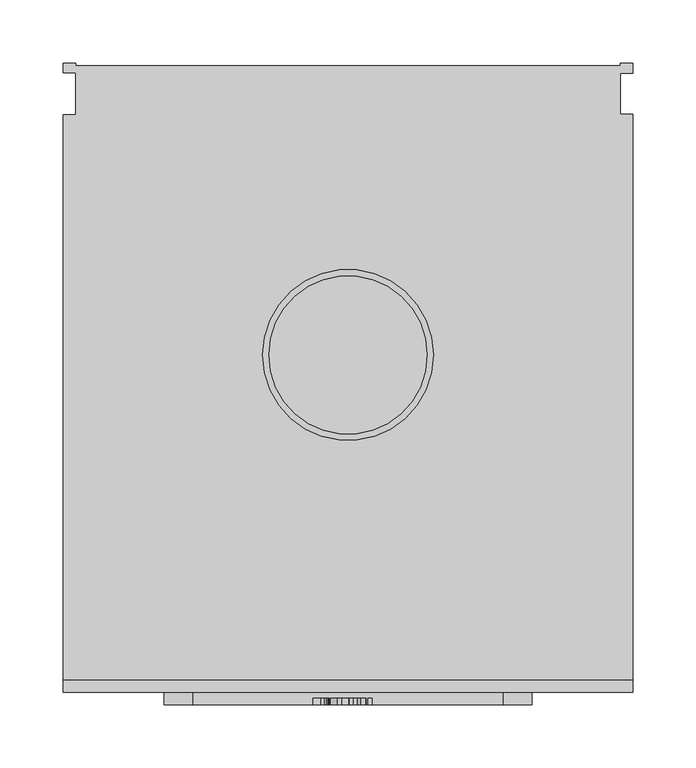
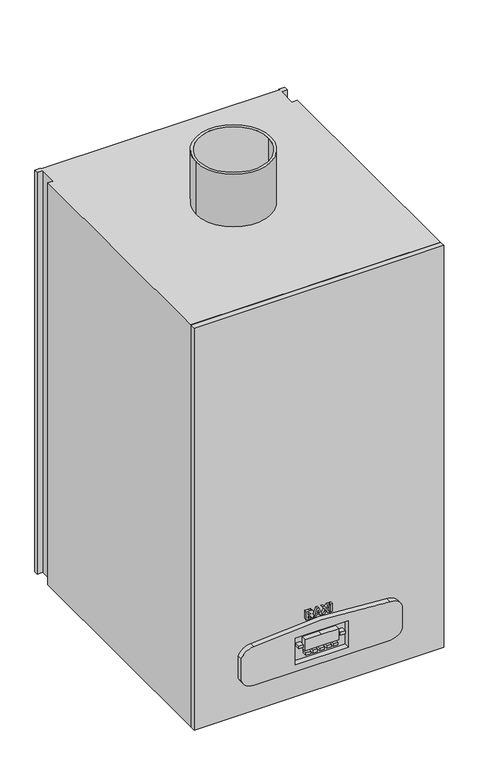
"""IFC4 building model written with IfcOpenShell, lengths in millimetres: proxy geometry, BAXI_ГазовыйКотел_Luna_Duo_tec_MP_1.35_1.50_1.60_1.70 : BAXI_Газовый котел_Luna_Duo-tec_MP_1.70."""

from ifc_helpers import new_model, si_unit, point, frame, frame_2d, origin, origin_with_axes, place, context, project, spatial, polyline, circle_curve, trimmed, segment, composite_curve, outline, extrude, source, transform, mapped, element, save


def mechanical_equipment_e7e8762c(model_context):
    return source(origin(), model_context, "Body", "SweptSolid", [
        extrude(outline(composite_curve([segment(trimmed(circle_curve(frame_2d((0.0, -229.0)), 67.5), [point((-67.5, -229.0))], [point((67.5, -229.0))], False, "CARTESIAN"), True, "CONTINUOUS"), segment(trimmed(circle_curve(frame_2d((0.0, -229.0)), 67.5), [point((67.5, -229.0))], [point((-67.5, -229.0))], False, "CARTESIAN"), True, "CONTINUOUS")], self_intersect=False), holes=[composite_curve([segment(trimmed(circle_curve(frame_2d((0.0, -229.0)), 62.5), [point((-62.5, -229.0))], [point((62.5, -229.0))], True, "CARTESIAN"), True, "CONTINUOUS"), segment(trimmed(circle_curve(frame_2d((0.0, -229.0)), 62.5), [point((62.5, -229.0))], [point((-62.5, -229.0))], True, "CARTESIAN"), True, "CONTINUOUS")], self_intersect=False)]), frame((0.0, 0.0, 766.0), z_axis=(0.0, 0.0, 1.0), x_axis=(1.0, 0.0, 0.0)), (0.0, 0.0, 1.0), 100.0),
        extrude(outline(composite_curve([segment(trimmed(circle_curve(frame_2d((130.5, -95.0)), 12.5), [point((118.0, -95.0))], [point((143.0, -95.0))], False, "CARTESIAN"), True, "CONTINUOUS"), segment(trimmed(circle_curve(frame_2d((130.5, -95.0)), 12.5), [point((143.0, -95.0))], [point((118.0, -95.0))], False, "CARTESIAN"), True, "CONTINUOUS")], self_intersect=False)), origin_with_axes(), (0.0, 0.0, 1.0), 27.0),
        extrude(outline(composite_curve([segment(trimmed(circle_curve(frame_2d((30.5, -95.0)), 12.5), [point((18.0, -95.0))], [point((43.0, -95.0))], False, "CARTESIAN"), True, "CONTINUOUS"), segment(trimmed(circle_curve(frame_2d((30.5, -95.0)), 12.5), [point((43.0, -95.0))], [point((18.0, -95.0))], False, "CARTESIAN"), True, "CONTINUOUS")], self_intersect=False)), origin_with_axes(), (0.0, 0.0, 1.0), 27.0),
        extrude(outline(composite_curve([segment(trimmed(circle_curve(frame_2d((-69.5, -95.0)), 10.0), [point((-79.5, -95.0))], [point((-59.5, -95.0))], False, "CARTESIAN"), True, "CONTINUOUS"), segment(trimmed(circle_curve(frame_2d((-69.5, -95.0)), 10.0), [point((-59.5, -95.0))], [point((-79.5, -95.0))], False, "CARTESIAN"), True, "CONTINUOUS")], self_intersect=False)), origin_with_axes(), (0.0, 0.0, 1.0), 27.0),
        extrude(outline(composite_curve([segment(trimmed(circle_curve(frame_2d((-148.5, -67.0)), 10.5), [point((-159.0, -67.0))], [point((-138.0, -67.0))], False, "CARTESIAN"), True, "CONTINUOUS"), segment(trimmed(circle_curve(frame_2d((-148.5, -67.0)), 10.5), [point((-138.0, -67.0))], [point((-159.0, -67.0))], False, "CARTESIAN"), True, "CONTINUOUS")], self_intersect=False)), origin_with_axes(), (0.0, 0.0, 1.0), 27.0),
        extrude(outline(polyline([(215.0, -0.5), (215.0, 1.3247101), (225.0, 1.3247101), (225.0, -6.656828), (215.0, -6.656828), (215.0, -38.999666), (225.0, -38.999666), (225.0, -485.5), (-225.0, -485.5), (-225.0, -39.3721844), (-215.0, -39.3721844), (-215.0, -6.0), (-225.0, -6.0), (-225.0, 1.3247101), (-215.0, 1.3247101), (-215.0, -0.5), (215.0, -0.5)])), origin_with_axes(), (0.0, 0.0, 1.0), 766.0),
        extrude(outline(composite_curve([segment(trimmed(circle_curve(frame_2d((104.8072413, -122.9523663)), 23.8820796), [point((128.6893209, -122.9523663))], [point((113.3983832, -145.2356786))], False, "CARTESIAN"), True, "CONTINUOUS"), segment(polyline([(113.3983832, -145.2356786), (70.7433267, -145.2356786)]), True, "CONTINUOUS"), segment(trimmed(circle_curve(frame_2d((79.3344686, -122.9523663)), 23.8820796), [point((70.7433267, -145.2356786))], [point((55.452389, -122.9523663))], False, "CARTESIAN"), True, "CONTINUOUS"), segment(trimmed(circle_curve(frame_2d((1446.9842906, 0.0)), 1396.9532267), [point((55.452389, -122.9523663))], [point((55.452389, 122.9523663))], False, "CARTESIAN"), True, "CONTINUOUS"), segment(trimmed(circle_curve(frame_2d((79.3344686, 122.9523663)), 23.8820796), [point((55.452389, 122.9523663))], [point((70.7433267, 145.2356786))], False, "CARTESIAN"), True, "CONTINUOUS"), segment(polyline([(70.7433267, 145.2356786), (113.3983832, 145.2356786)]), True, "CONTINUOUS"), segment(trimmed(circle_curve(frame_2d((104.8072413, 122.9523663)), 23.8820796), [point((113.3983832, 145.2356786))], [point((128.6893209, 122.9523663))], False, "CARTESIAN"), True, "CONTINUOUS"), segment(trimmed(circle_curve(frame_2d((-729.6850121, 0.0)), 867.1353873), [point((128.6893209, 122.9523663))], [point((128.6893209, -122.9523663))], False, "CARTESIAN"), True, "CONTINUOUS")], self_intersect=False), holes=[composite_curve([segment(polyline([(118.6255043, 47.6543882), (68.5914458, 47.6543882)]), True, "CONTINUOUS"), segment(trimmed(circle_curve(frame_2d((837.1487337, -0.0067979)), 770.0336963), [point((68.5914458, 47.6543882))], [point((68.5900202, -47.6449894))], True, "CARTESIAN"), True, "CONTINUOUS"), segment(polyline([(68.5900202, -47.6449894), (118.6267876, -47.6449894)]), True, "CONTINUOUS"), segment(trimmed(circle_curve(frame_2d((-371.9337244, -0.0019062)), 492.8686227), [point((118.6267876, -47.6449894))], [point((118.6255043, 47.6543882))], True, "CARTESIAN"), True, "CONTINUOUS")], self_intersect=False)]), frame((0.0, -505.0, 0.0), z_axis=(0.0, 1.0, 0.0), x_axis=(0.0, 0.0, 1.0)), (0.0, 0.0, 1.0), 140.4409704),
        extrude(outline(polyline([(109.7310849, -30.1449894), (88.5237303, -30.1449894), (88.5237303, 0.0), (88.5237303, 30.1543882), (109.7310849, 30.1543882), (109.7310849, 0.0), (109.7310849, -30.1449894)])), frame((0.0, -505.0, 0.0), z_axis=(0.0, 1.0, 0.0), x_axis=(0.0, 0.0, 1.0)), (0.0, 0.0, 1.0), 140.4409704),
        extrude(outline(polyline([(-8.4794751, -505.0), (-16.8504852, -505.0), (-16.8504852, -364.5590296), (-8.4794751, -364.5590296), (-8.4794751, -505.0)])), frame((0.0, 0.0, 79.6360588), z_axis=(0.0, 0.0, 1.0), x_axis=(1.0, 0.0, 0.0)), (0.0, 0.0, 1.0), 5.0),
        extrude(outline(polyline([(4.1855051, -505.0), (-4.1855051, -505.0), (-4.1855051, -364.5590296), (4.1855051, -364.5590296), (4.1855051, -505.0)])), frame((0.0, 0.0, 79.6360588), z_axis=(0.0, 0.0, 1.0), x_axis=(1.0, 0.0, 0.0)), (0.0, 0.0, 1.0), 5.0),
        extrude(outline(polyline([(16.8504852, -505.0), (8.4794751, -505.0), (8.4794751, -364.5590296), (16.8504852, -364.5590296), (16.8504852, -505.0)])), frame((0.0, 0.0, 79.6360588), z_axis=(0.0, 0.0, 1.0), x_axis=(1.0, 0.0, 0.0)), (0.0, 0.0, 1.0), 5.0),
        extrude(outline(polyline([(28.5176661, -505.0), (20.146656, -505.0), (20.146656, -364.5590296), (28.5176661, -364.5590296), (28.5176661, -505.0)])), frame((0.0, 0.0, 79.6360588), z_axis=(0.0, 0.0, 1.0), x_axis=(1.0, 0.0, 0.0)), (0.0, 0.0, 1.0), 5.0),
        extrude(outline(polyline([(-20.3206056, -505.0), (-28.6916158, -505.0), (-28.6916158, -364.5590296), (-20.3206056, -364.5590296), (-20.3206056, -505.0)])), frame((0.0, 0.0, 79.6360588), z_axis=(0.0, 0.0, 1.0), x_axis=(1.0, 0.0, 0.0)), (0.0, 0.0, 1.0), 5.0),
        extrude(outline(polyline([(41.7216124, -505.0), (33.3506023, -505.0), (33.3506023, -364.5590296), (41.7216124, -364.5590296), (41.7216124, -505.0)])), frame((0.0, 0.0, 96.4118459), z_axis=(0.0, 0.0, 1.0), x_axis=(1.0, 0.0, 0.0)), (0.0, 0.0, 1.0), 5.0),
        extrude(outline(polyline([(-33.5245519, -505.0), (-41.8955621, -505.0), (-41.8955621, -364.5590296), (-33.5245519, -364.5590296), (-33.5245519, -505.0)])), frame((0.0, 0.0, 96.4118459), z_axis=(0.0, 0.0, 1.0), x_axis=(1.0, 0.0, 0.0)), (0.0, 0.0, 1.0), 5.0),
        extrude(outline(polyline([(161.6564179, -27.7825455), (146.3525269, -27.7825455), (146.3525269, -22.5521978), (146.4550083, -18.8097284), (147.1780716, -16.7278375), (148.7456577, -15.3955791), (150.7668189, -14.9078435), (153.0631617, -15.5872573), (154.4447629, -17.5306086), (155.799795, -15.9687159), (157.7811023, -15.3936813), (159.5821182, -15.8757235), (160.8688293, -17.080829), (161.5045936, -18.7205316), (161.6564179, -21.5008144), (161.6564179, -27.7825455)]), holes=[polyline([(158.98431, -24.8675186), (158.98431, -22.9165762), (155.6327882, -20.1761473), (155.5834453, -22.6432924), (155.5834453, -24.8675186), (158.98431, -24.8675186)]), polyline([(152.9113374, -24.8675186), (152.9113374, -22.1764326), (149.1157295, -19.5005291), (149.0246349, -21.785485), (149.0246349, -24.8675186), (152.9113374, -24.8675186)])]), frame((0.0, -505.0, 0.0), z_axis=(0.0, 1.0, 0.0), x_axis=(0.0, 0.0, 1.0)), (0.0, 0.0, 1.0), 5.0),
        extrude(outline(polyline([(146.3525269, 0.3960475), (161.6564179, -5.2442258), (161.6564179, -8.3490331), (146.3525269, -13.9361679), (146.3525269, -10.8313606), (149.7533916, -9.647131), (149.7533916, -3.8664202), (146.3525269, -2.6670081), (146.3525269, 0.3960475)]), holes=[polyline([(152.4254996, -4.8001397), (152.4254996, -8.7134114), (158.0126344, -6.7700602), (152.4254996, -4.8001397)])]), frame((0.0, -505.0, 0.0), z_axis=(0.0, 1.0, 0.0), x_axis=(0.0, 0.0, 1.0)), (0.0, 0.0, 1.0), 5.0),
        extrude(outline(polyline([(146.3525269, 0.5175069), (146.3525269, 3.9259628), (151.7574726, 7.4406957), (146.3525269, 10.9554286), (146.3525269, 14.3638845), (154.376442, 9.1449237), (161.6564179, 13.8780467), (161.6564179, 10.4695908), (156.9992071, 7.4406957), (161.6564179, 4.4118006), (161.6564179, 1.0033447), (154.376442, 5.7364678), (146.3525269, 0.5175069)])), frame((0.0, -505.0, 0.0), z_axis=(0.0, 1.0, 0.0), x_axis=(0.0, 0.0, 1.0)), (0.0, 0.0, 1.0), 5.0),
        extrude(outline(polyline([(15.9428574, -500.0), (18.8578842, -500.0), (18.8578842, -505.0), (15.9428574, -505.0), (15.9428574, -500.0)])), frame((0.0, 0.0, 146.3525269), z_axis=(0.0, 0.0, 1.0), x_axis=(1.0, 0.0, 0.0)), (0.0, 0.0, 1.0), 15.303891),
        extrude(outline(composite_curve([segment(polyline([(225.0, -485.0), (225.0, -495.5071393)]), True, "CONTINUOUS"), segment(trimmed(circle_curve(frame_2d((0.0, 8312.6346078)), 8811.0150402), [point((225.0, -495.5071393))], [point((-225.0, -495.5071393))], False, "CARTESIAN"), True, "CONTINUOUS"), segment(polyline([(-225.0, -495.5071393), (-225.0, -485.0), (225.0, -485.0)]), True, "CONTINUOUS")], self_intersect=False)), origin_with_axes(), (0.0, 0.0, 1.0), 766.0),
    ])


if __name__ == "__main__":
    model = new_model("IFC4")
    model_context = context("Model", 3, world=origin())
    ifc_project = project(units=[si_unit("LENGTHUNIT", "METRE", prefix="MILLI")], contexts=[model_context])
    site = spatial("IfcSite", under=ifc_project)
    building = spatial("IfcBuilding", under=site)
    placement = place(None, origin())
    mechanical_equipment_shape = mechanical_equipment_e7e8762c(model_context)
    element("IfcBuildingElementProxy", 1, Name="BAXI_ГазовыйКотел_Luna_Duo_tec_MP_1.35_1.50_1.60_1.70 : BAXI_Газовый котел_Luna_Duo-tec_MP_1.70", ObjectType="BAXI_ГазовыйКотел_Luna_Duo_tec_MP_1.35_1.50_1.60_1.70 : BAXI_Газовый котел_Luna_Duo-tec_MP_1.70", at=placement, inside=building, context=model_context, shape_type="MappedRepresentation", body=[
        mapped(mechanical_equipment_shape, transform((0.0, 0.0, 0.0), x_axis=(1.0, 0.0, 0.0), y_axis=(0.0, 1.0, 0.0), z_axis=(0.0, 0.0, 1.0))),
    ])
    save(model, "model.ifc")
